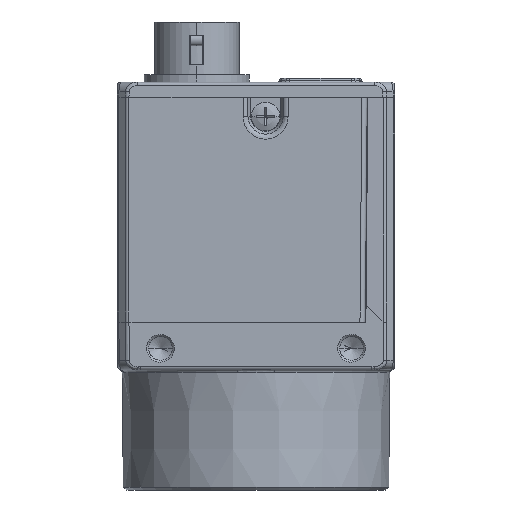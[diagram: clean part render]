
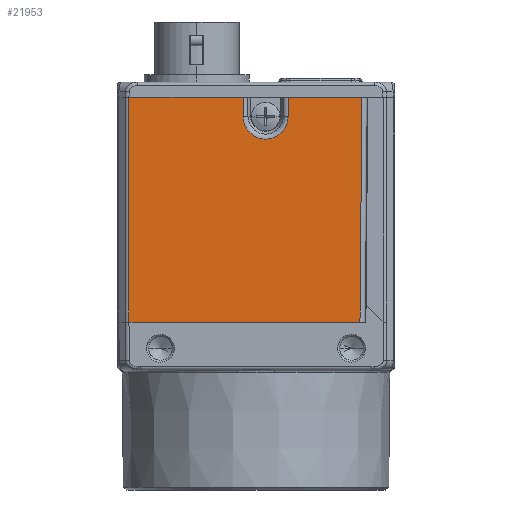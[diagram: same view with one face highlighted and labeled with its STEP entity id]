
A CAD part, left-side view. The second image highlights one B-rep face of the part: STEP entity #21953.
In plain terms, the highlighted planar face has unit normal (-1, 0, 0).
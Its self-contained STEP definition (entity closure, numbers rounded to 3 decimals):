
#4710=DIRECTION('',(0.,-1.,0.));
#4711=VECTOR('',#4710,11.935);
#4712=CARTESIAN_POINT('',(-14.5,13.293,23.));
#4713=LINE('',#4712,#4711);
#4714=CARTESIAN_POINT('',(-14.5,-1.,21.));
#4715=DIRECTION('',(-1.,0.,0.));
#4716=DIRECTION('',(0.,1.,0.));
#4717=AXIS2_PLACEMENT_3D('',#4714,#4715,#4716);
#4719=DIRECTION('',(0.,-1.,0.));
#4720=VECTOR('',#4719,7.727);
#4721=CARTESIAN_POINT('',(-14.5,-3.358,23.));
#4722=LINE('',#4721,#4720);
#4723=DIRECTION('',(0.,0.009,-1.));
#4724=VECTOR('',#4723,23.501);
#4725=CARTESIAN_POINT('',(-14.5,-11.085,23.));
#4726=LINE('',#4725,#4724);
#4727=DIRECTION('',(0.,1.,0.));
#4728=VECTOR('',#4727,24.173);
#4729=CARTESIAN_POINT('',(-14.5,-10.88,
-0.5));
#4730=LINE('',#4729,#4728);
#4731=DIRECTION('',(0.,0.,1.));
#4732=VECTOR('',#4731,23.5);
#4733=CARTESIAN_POINT('',(-14.5,13.293,
-0.5));
#4734=LINE('',#4733,#4732);
#4735=DIRECTION('',(0.,0.,1.));
#4736=VECTOR('',#4735,2.);
#4737=CARTESIAN_POINT('',(-14.5,1.358,21.));
#4738=LINE('',#4737,#4736);
#4761=DIRECTION('',(0.,0.,-1.));
#4762=VECTOR('',#4761,2.);
#4763=CARTESIAN_POINT('',(-14.5,-3.358,23.));
#4764=LINE('',#4763,#4762);
#7614=CARTESIAN_POINT('',(-14.5,13.293,23.));
#17994=CARTESIAN_POINT('',(-14.5,-11.085,23.));
#17996=VERTEX_POINT('',#17994);
#18394=CARTESIAN_POINT('',(-14.5,-10.88,
-0.5));
#18396=VERTEX_POINT('',#18394);
#18562=CARTESIAN_POINT('',(-14.5,13.293,
-0.5));
#18563=VERTEX_POINT('',#18562);
#18581=VERTEX_POINT('',#7614);
#18724=CARTESIAN_POINT('',(-14.5,1.358,
23.));
#18725=VERTEX_POINT('',#18724);
#18726=CARTESIAN_POINT('',(-14.5,1.358,21.));
#18727=CARTESIAN_POINT('',(-14.5,-3.358,21.));
#18728=VERTEX_POINT('',#18726);
#18729=VERTEX_POINT('',#18727);
#18730=CARTESIAN_POINT('',(-14.5,-3.358,23.));
#18731=VERTEX_POINT('',#18730);
#21932=CARTESIAN_POINT('',(-14.5,1.104,11.25));
#21933=DIRECTION('',(1.,0.,0.));
#21934=DIRECTION('',(0.,-1.,0.));
#21935=AXIS2_PLACEMENT_3D('',#21932,#21933,#21934);
#21936=PLANE('',#21935);
#21937=ORIENTED_EDGE('',*,*,#21912,.T.);
#21939=ORIENTED_EDGE('',*,*,#21938,.F.);
#21941=ORIENTED_EDGE('',*,*,#21940,.T.);
#21943=ORIENTED_EDGE('',*,*,#21942,.F.);
#21944=ORIENTED_EDGE('',*,*,#21925,.T.);
#21946=ORIENTED_EDGE('',*,*,#21945,.T.);
#21948=ORIENTED_EDGE('',*,*,#21947,.T.);
#21950=ORIENTED_EDGE('',*,*,#21949,.T.);
#21951=EDGE_LOOP('',(#21937,#21939,#21941,#21943,#21944,#21946,#21948,#21950));
#21952=FACE_OUTER_BOUND('',#21951,.F.);
#21953=ADVANCED_FACE('',(#21952),#21936,.F.);
#4718=CIRCLE('',#4717,2.358);
#21912=EDGE_CURVE('',#18581,#18725,#4713,.T.);
#21925=EDGE_CURVE('',#18731,#17996,#4722,.T.);
#21938=EDGE_CURVE('',#18728,#18725,#4738,.T.);
#21940=EDGE_CURVE('',#18728,#18729,#4718,.T.);
#21942=EDGE_CURVE('',#18731,#18729,#4764,.T.);
#21945=EDGE_CURVE('',#17996,#18396,#4726,.T.);
#21947=EDGE_CURVE('',#18396,#18563,#4730,.T.);
#21949=EDGE_CURVE('',#18563,#18581,#4734,.T.);
